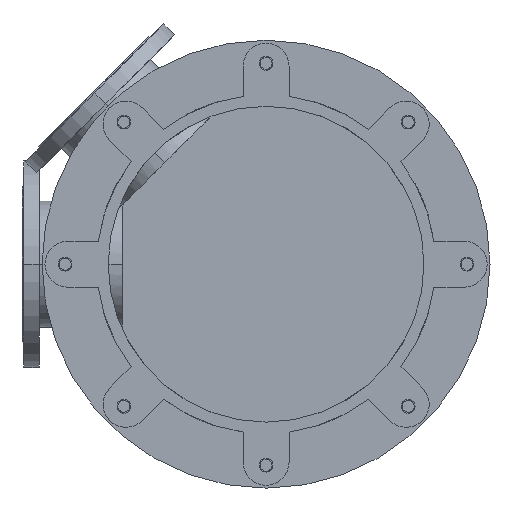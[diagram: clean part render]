
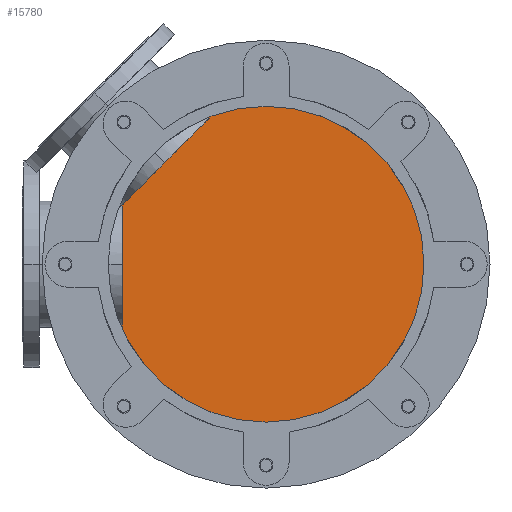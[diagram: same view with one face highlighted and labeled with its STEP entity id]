
A CAD part, front view. The second image highlights one B-rep face of the part: STEP entity #15780.
In plain terms, the highlighted planar face has unit normal (0, -1, 0).
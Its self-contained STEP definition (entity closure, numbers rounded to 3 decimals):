
#3955=CARTESIAN_POINT('',(0.,1359.,0.));
#3956=DIRECTION('',(0.,-1.,0.));
#3957=DIRECTION('',(0.,0.,-1.));
#3958=AXIS2_PLACEMENT_3D('',#3955,#3956,#3957);
#4040=CARTESIAN_POINT('',(0.,1359.,0.));
#4041=DIRECTION('',(0.,-1.,0.));
#4042=DIRECTION('',(0.,0.,1.));
#4043=AXIS2_PLACEMENT_3D('',#4040,#4041,#4042);
#9175=CARTESIAN_POINT('',(0.,1359.,290.));
#9176=CARTESIAN_POINT('',(0.,1359.,-290.));
#9177=VERTEX_POINT('',#9175);
#9178=VERTEX_POINT('',#9176);
#15771=CARTESIAN_POINT('',(0.,1359.,0.));
#15772=DIRECTION('',(0.,1.,0.));
#15773=DIRECTION('',(0.,0.,-1.));
#15774=AXIS2_PLACEMENT_3D('',#15771,#15772,#15773);
#15775=PLANE('',#15774);
#15776=ORIENTED_EDGE('',*,*,#15751,.F.);
#15777=ORIENTED_EDGE('',*,*,#15656,.F.);
#15778=EDGE_LOOP('',(#15776,#15777));
#15779=FACE_OUTER_BOUND('',#15778,.F.);
#15780=ADVANCED_FACE('',(#15779),#15775,.F.);
#3959=CIRCLE('',#3958,290.);
#4044=CIRCLE('',#4043,290.);
#15656=EDGE_CURVE('',#9178,#9177,#3959,.T.);
#15751=EDGE_CURVE('',#9177,#9178,#4044,.T.);
